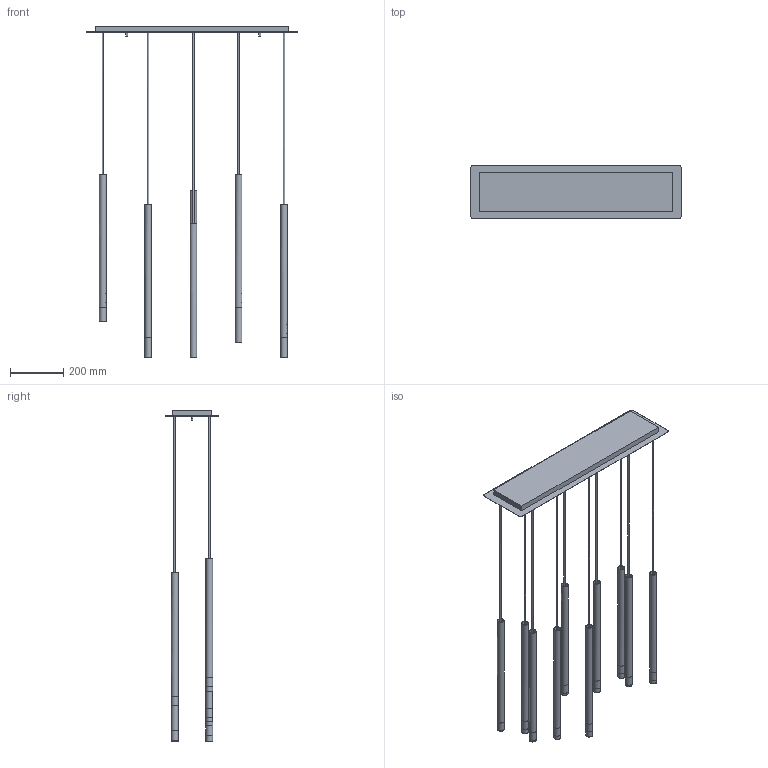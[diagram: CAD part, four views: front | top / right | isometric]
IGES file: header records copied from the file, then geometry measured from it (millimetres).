
Start section: SolidWorks IGES file using NURBS representation for surfaces
Global section: file name: Z:\Modele 3D_WWW\_KOLEKCJE WWW\LASER\8922\LASER-X-8922.IGS; native system: SolidWorks 2021; preprocessor: SolidWorks 2021; author: gabriela.tworek; date: 220217.075535; units: millimetre
Bounding box: 790 x 200 x 1244.63 mm (x, y, z)
Surface area: 1501261.2 mm2 (no closed solid volume)
Topology: 0 solids, 0 shells, 141 faces, 591 edges, 532 vertices
Faces by surface type: bspline 141
